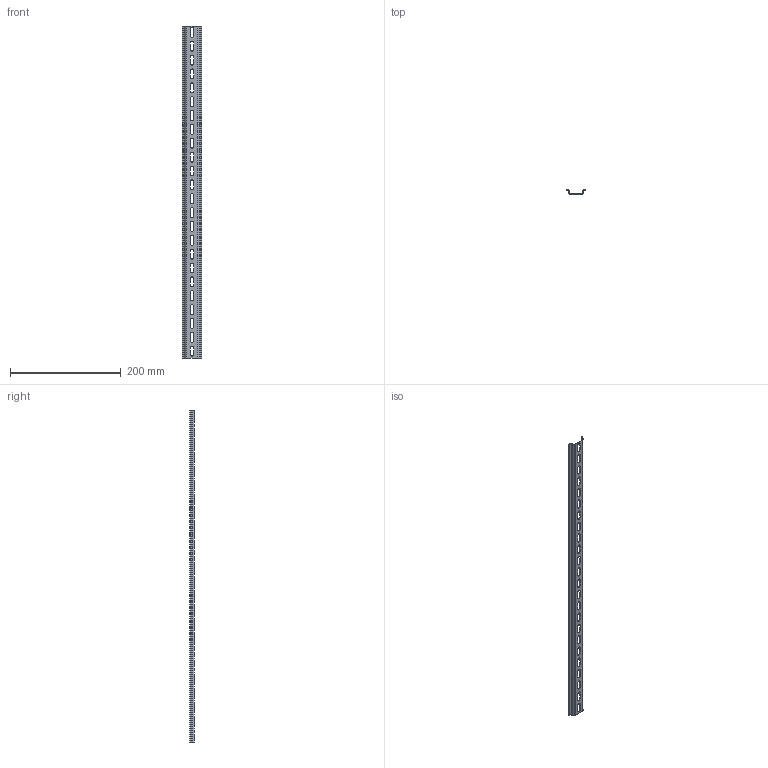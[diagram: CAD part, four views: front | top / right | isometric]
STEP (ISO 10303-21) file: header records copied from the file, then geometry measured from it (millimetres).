
FILE_DESCRIPTION (( 'STEP AP214' ), '1' );
FILE_NAME ('DIN-ðåéêà 600ìì õ 0,8 ìì.STEP', '2025-10-22T12:53:48', ( '' ), ( '' ), 'SwSTEP 2.0', 'SolidWorks 2018', '' );
FILE_SCHEMA (( 'AUTOMOTIVE_DESIGN' ));
Length unit declared in the file: millimetre
Products named in the file (1): DIN-ðåéêà 600ìì õ 0,8 ìì
Bounding box: 35.2 x 8.3 x 600 mm (x, y, z)
Volume: 19748.4 mm3; surface area: 51225.5 mm2
Topology: 1 solids, 1 shells, 158 faces, 436 edges, 280 vertices
Faces by surface type: cylinder 80, plane 78
Entity records: 5174 total; most frequent: DIRECTION 914, CARTESIAN_POINT 875, ORIENTED_EDGE 872, EDGE_CURVE 436, AXIS2_PLACEMENT_3D 319, VERTEX_POINT 280, VECTOR 276, LINE 276
